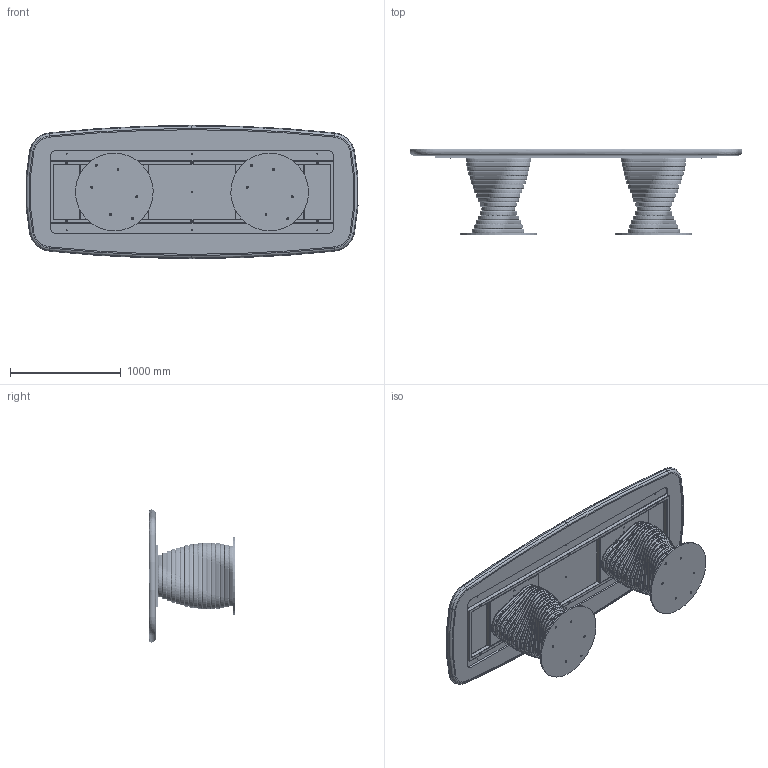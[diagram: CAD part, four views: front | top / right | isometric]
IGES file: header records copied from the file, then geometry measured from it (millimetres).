
Start section: SolidWorks IGES file using analytic representation for surfaces
Global section: file name: Y:\eforma\TECNICO\SOLIDWORKS\E-FORMA\1-TAVOLI\ROTOLO\08 modelli 3D web\RO24K_Rotolo_300x120_King..IGS; native system: SolidWorks 2022; preprocessor: SolidWorks 2022; author: eforma.tech; date: 240802.100940; units: millimetre
Bounding box: 2991.72 x 768 x 1200 mm (x, y, z)
Volume: 169418152 mm3; surface area: 28210151.1 mm2
Topology: 155 solids, 155 shells, 2381 faces, 5822 edges, 3703 vertices
Faces by surface type: revolution 1503, plane 878
